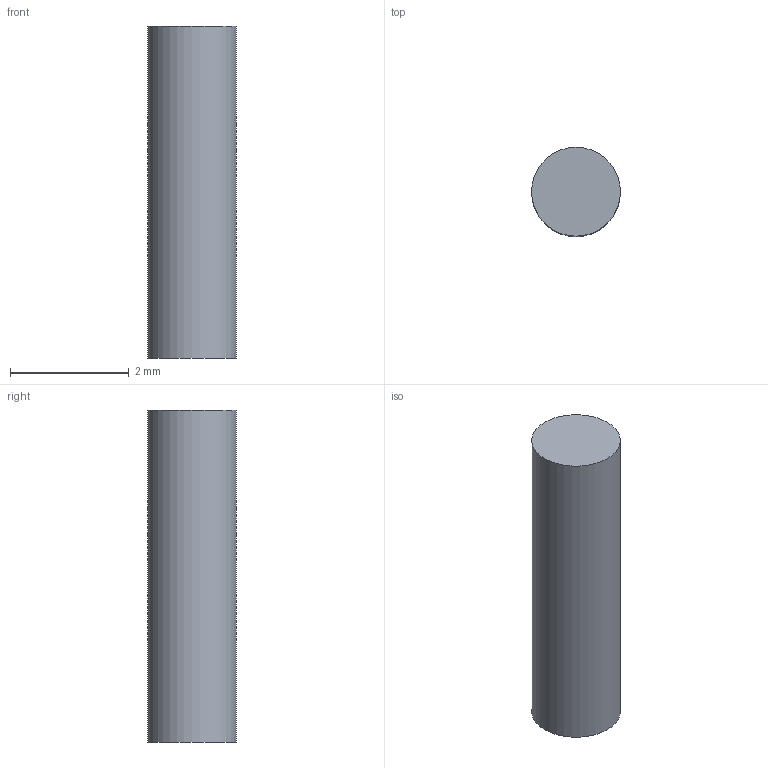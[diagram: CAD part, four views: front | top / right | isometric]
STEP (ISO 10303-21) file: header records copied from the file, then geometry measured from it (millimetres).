
FILE_DESCRIPTION(('Open CASCADE Model'),'2;1');
FILE_NAME('Open CASCADE Shape Model','2026-10-16T20:10:46',('Author'),( 'Open CASCADE'),'Open CASCADE STEP processor 7.9','Open CASCADE 7.9' ,'Unknown');
FILE_SCHEMA(('AUTOMOTIVE_DESIGN { 1 0 10303 214 1 1 1 1 }'));
Length unit declared in the file: millimetre
Products named in the file (1): Open CASCADE STEP translator 7.9 50
Bounding box: 1.5 x 1.5 x 5.6 mm (x, y, z)
Volume: 9.9 mm3; surface area: 29.9 mm2
Topology: 1 solids, 1 shells, 3 faces, 3 edges, 2 vertices
Faces by surface type: plane 2, cylinder 1
Full cylindrical faces by diameter (mm): 1.5 x1
Entity records: 114 total; most frequent: CARTESIAN_POINT 27, DIRECTION 17, AXIS2_PLACEMENT_3D 6, ORIENTED_EDGE 6, PCURVE 6, DEFINITIONAL_REPRESENTATION 6, LINE 5, VECTOR 5
